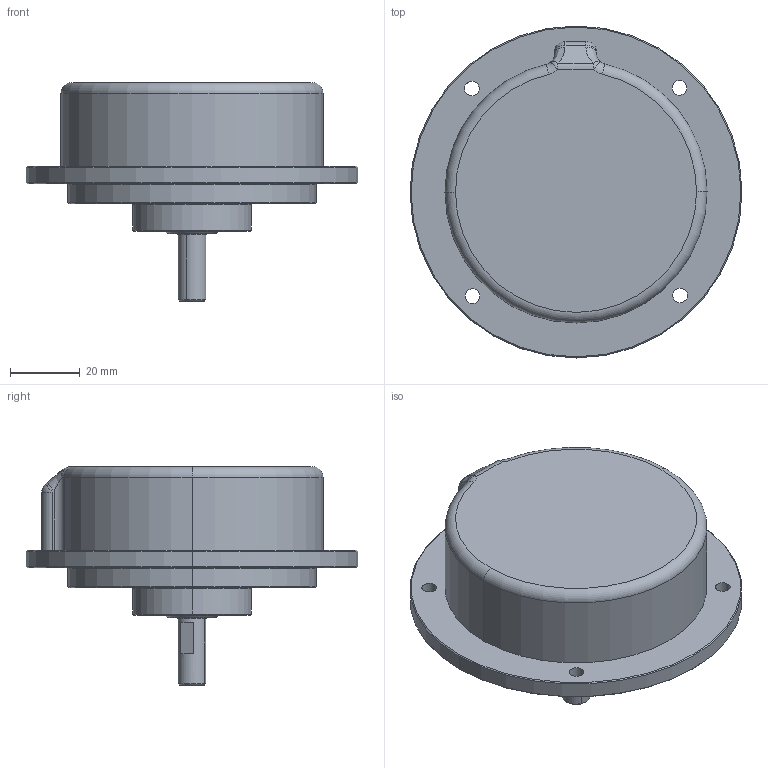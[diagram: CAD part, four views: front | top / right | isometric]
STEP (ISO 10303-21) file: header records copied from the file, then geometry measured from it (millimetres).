
FILE_DESCRIPTION (( 'STEP AP214' ), '1' );
FILE_NAME ('DL-66 Low cover.STEP', '2025-03-24T14:09:12', ( '' ), ( '' ), 'SwSTEP 2.0', 'SolidWorks 2022', '' );
FILE_SCHEMA (( 'AUTOMOTIVE_DESIGN' ));
Length unit declared in the file: millimetre
Products named in the file (10): BEARING-28; MP-00301_2-145; MA-03464; MP-01300_2-104; MP-03463-00; MP-06047-02; MP-00302_2-005; MP-03462-00_With holes, no break; socket head cap screw_din_DIN 912 M3 x 6 --- 6C; DL-66 Low cover
Assembly tree (20 placements, depth 3):
  DL-66 Low cover
    MA-03464
      MP-03462-00_With holes, no break
      BEARING-28  x2
      MP-03463-00
    MP-06047-02
    MP-00301_2-145
    MP-01300_2-104
    MP-00302_2-005  x6
    socket head cap screw_din_DIN 912 M3 x 6 --- 6C  x6
Bounding box: 95 x 95 x 62.6 mm (x, y, z)
Volume: 109120.2 mm3; surface area: 56904.2 mm2
Topology: 25 solids, 25 shells, 604 faces, 1334 edges, 764 vertices
Faces by surface type: cylinder 217, plane 145, torus 133, cone 103, sphere 4, bspline 2
Entity records: 12682 total; most frequent: DIRECTION 2244, CARTESIAN_POINT 1934, ORIENTED_EDGE 1728, AXIS2_PLACEMENT_3D 965, EDGE_CURVE 864, CIRCLE 542, VERTEX_POINT 525, EDGE_LOOP 479
